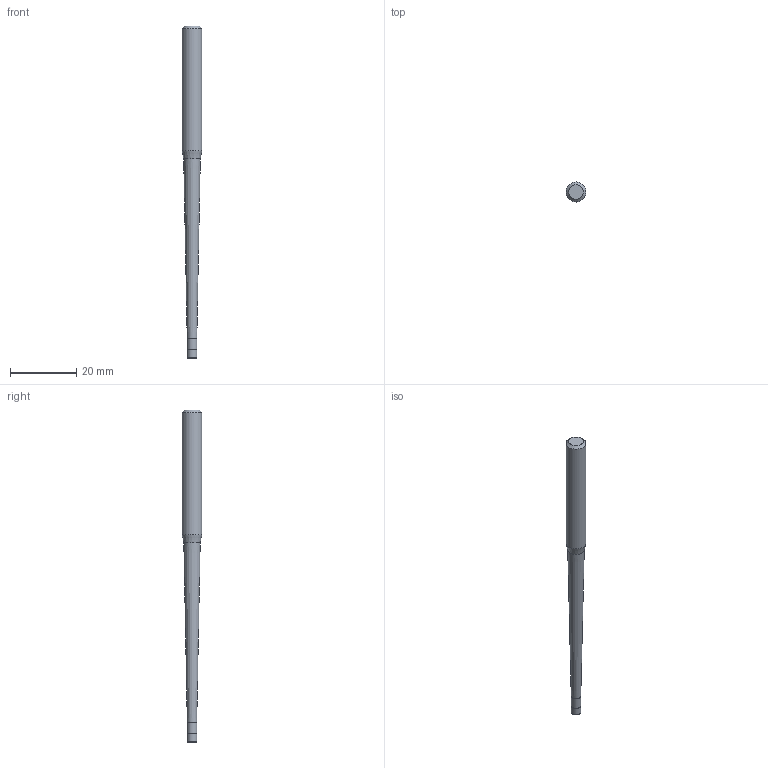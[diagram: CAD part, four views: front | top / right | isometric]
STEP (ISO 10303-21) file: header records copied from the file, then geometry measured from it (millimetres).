
FILE_DESCRIPTION((''),'2;1');
FILE_NAME('C:\Users\nsx150\AppData\Local\Temp\Mastercam 2021\YKS1SUSFZB\TEMP.step','2025-06-23T14:04:55',(''),(''),'STEP Write','Mastercam 2021 ... CNC Software, Inc.','');
FILE_SCHEMA(('AUTOMOTIVE_DESIGN'));
Length unit declared in the file: millimetre
Products named in the file (1): None
Bounding box: 6 x 6 x 100 mm (x, y, z)
Volume: 1828.5 mm3; surface area: 1513 mm2
Topology: 2 solids, 2 shells, 11 faces, 16 edges, 9 vertices
Faces by surface type: plane 4, cylinder 3, cone 3, torus 1
Full cylindrical faces by diameter (mm): 2.885 x1, 3 x1, 6 x1
Entity records: 253 total; most frequent: DIRECTION 44, CARTESIAN_POINT 31, AXIS2_PLACEMENT_3D 22, ORIENTED_EDGE 18, EDGE_LOOP 18, STYLED_ITEM 14, ADVANCED_FACE 11, FACE_BOUND 11
